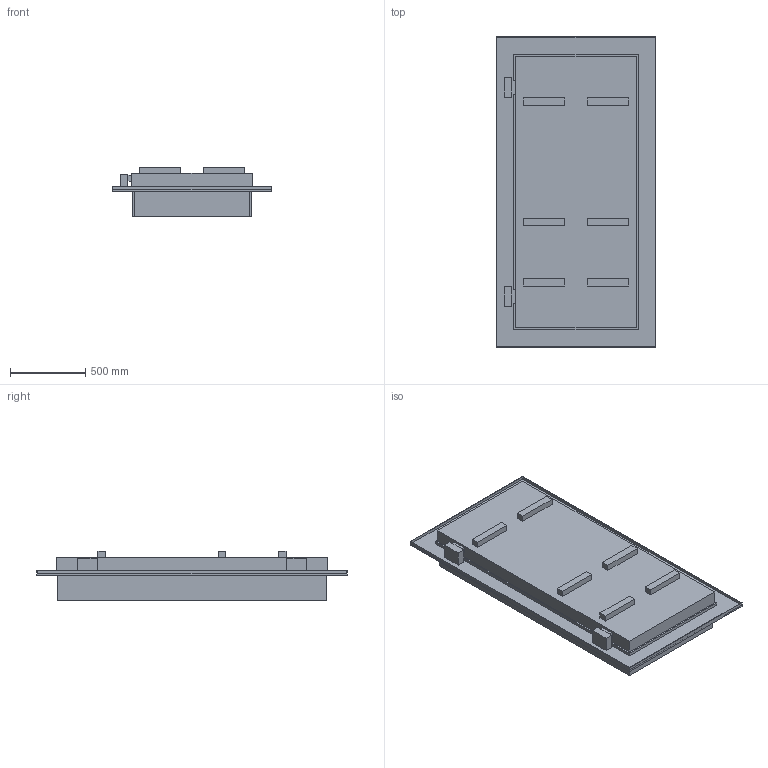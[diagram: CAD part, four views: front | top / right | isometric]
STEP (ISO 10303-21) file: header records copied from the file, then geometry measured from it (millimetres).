
FILE_DESCRIPTION((''),'2;1');
FILE_NAME('52045026','2023-04-24T13:56:42',('kc'),('HUBER SE'),'CREO PARAMETRIC BY PTC INC, 2022162','CREO PARAMETRIC BY PTC INC, 2022162','');
FILE_SCHEMA(('AUTOMOTIVE_DESIGN { 1 0 10303 214 1 1 1 1 }'));
Length unit declared in the file: millimetre
Products named in the file (1): 52045026
Bounding box: 1060 x 2060 x 330 mm (x, y, z)
Volume: 156984116 mm3; surface area: 7607392 mm2
Topology: 1 solids, 1 shells, 109 faces, 264 edges, 176 vertices
Faces by surface type: plane 109
Entity records: 4430 total; most frequent: CARTESIAN_POINT 551, ORIENTED_EDGE 528, DIRECTION 482, VECTOR 264, LINE 264, EDGE_CURVE 264, VERTEX_POINT 176, EDGE_LOOP 132
